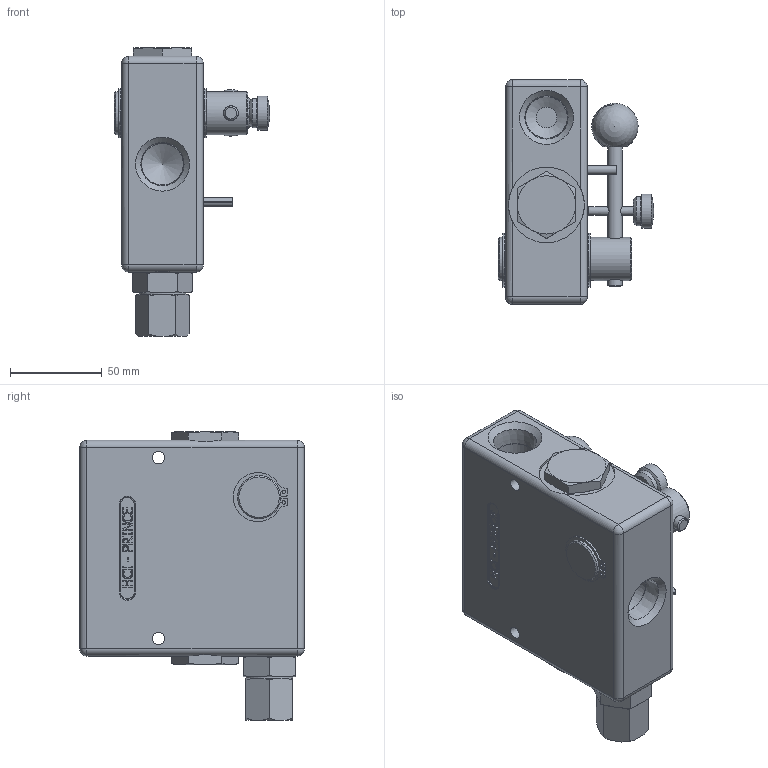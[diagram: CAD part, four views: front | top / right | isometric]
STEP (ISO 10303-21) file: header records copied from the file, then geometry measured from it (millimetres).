
FILE_DESCRIPTION((''),'2;1');
FILE_NAME('C:\Vault\Workspace\z_ShellModels\Misc_RD_RV\RDRS-1975-xx-Shell.stp','2012-03-19T10:49:57',('PetersW'),(''),'Autodesk Inventor 2012','Autodesk Inventor 2012','');
FILE_SCHEMA(('AUTOMOTIVE_DESIGN { 1 0 10303 214 1 1 1 1 }'));
Length unit declared in the file: inch
Products named in the file (1): Part3
Bounding box: 84.52 x 122.22 x 157.14 mm (x, y, z)
Volume: 593069.2 mm3; surface area: 90804.3 mm2
Topology: 2 solids, 6 shells, 943 faces, 2415 edges, 1565 vertices
Faces by surface type: plane 466, bspline 220, cylinder 126, cone 85, torus 36, sphere 10
Full cylindrical faces by diameter (mm): 1.981 x4, 2.286 x5, 2.362 x1, 4.724 x2, 4.978 x2, 6.401 x1, 6.731 x2, 7.899 x1, 8.103 x1, 11.113 x2, 15.875 x3, 18.542 x1, 18.847 x2, 22.225 x2, 22.631 x3, 23.52 x5, 23.546 x2, 23.952 x2, 24.917 x2, 25.4 x2, 41.275 x2
Entity records: 30496 total; most frequent: CARTESIAN_POINT 8745, ORIENTED_EDGE 4564, DIRECTION 3552, EDGE_CURVE 2282, VERTEX_POINT 1520, VECTOR 1350, LINE 1350, EDGE_LOOP 1132
